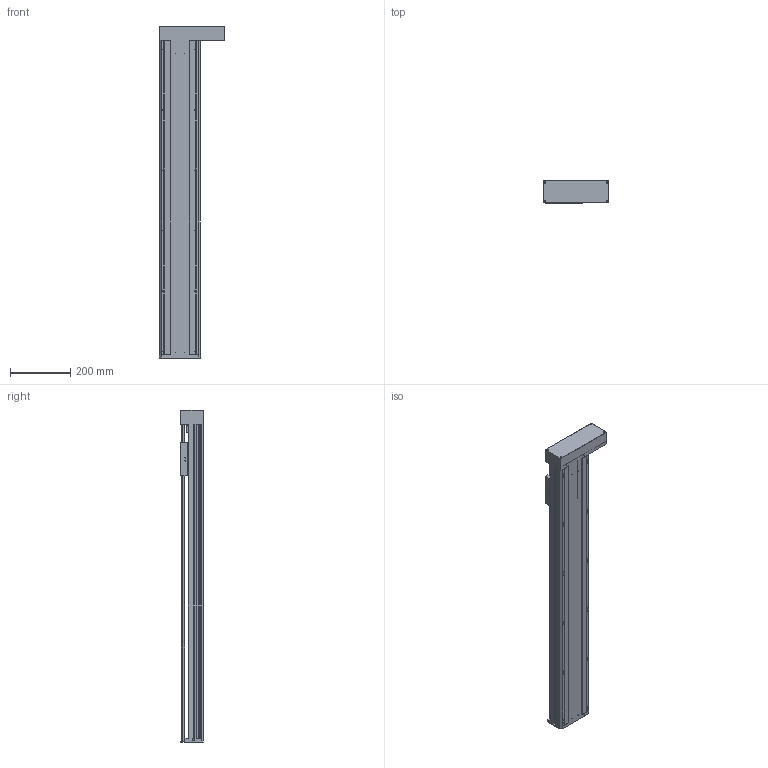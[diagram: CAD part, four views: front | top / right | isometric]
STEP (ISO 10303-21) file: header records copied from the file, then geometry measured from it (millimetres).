
FILE_DESCRIPTION(/* description */ (''),/* implementation_level */ '2;1');
FILE_NAME(/* name */ 'TKA136-FR-850_asm1.stp',/* time_stamp */ '2016-05-07T14:44:16+08:00',/* author */ (''),/* organization */ (''),/* preprocessor_version */ 'ST-DEVELOPER v15',/* originating_system */ 'SIEMENS PLM Software NX 8.5',/* authorisation */ '');
FILE_SCHEMA (('AUTOMOTIVE_DESIGN { 1 0 10303 214 3 1 1 1 }'));
Length unit declared in the file: millimetre
Products named in the file (3): 100-02; 100-01; TKA136-FR-850_asm1
Assembly tree (2 placements, depth 2):
  TKA136-FR-850_asm1
    100-01
    100-02
Bounding box: 216 x 75 x 1100 mm (x, y, z)
Volume: 3389828 mm3; surface area: 1321510.5 mm2
Topology: 2 solids, 12 shells, 897 faces, 2554 edges, 1671 vertices
Faces by surface type: cylinder 427, plane 417, cone 53
Full cylindrical faces by diameter (mm): 2.5 x4, 3 x2, 3.3 x15, 4 x4, 4.2 x14, 4.5 x26, 5 x16, 5.5 x26, 6.6 x16, 8 x20, 10 x9, 10.5 x12, 11 x4, 11.6 x1, 12 x9, 15 x3, 16 x5, 17 x1, 24 x5, 26 x1, 28 x1, 46 x2, 50 x1
Entity records: 30153 total; most frequent: CARTESIAN_POINT 8066, DIRECTION 4577, ORIENTED_EDGE 4294, EDGE_CURVE 2147, AXIS2_PLACEMENT_3D 1745, VERTEX_POINT 1539, EDGE_LOOP 1323, LINE 1087
